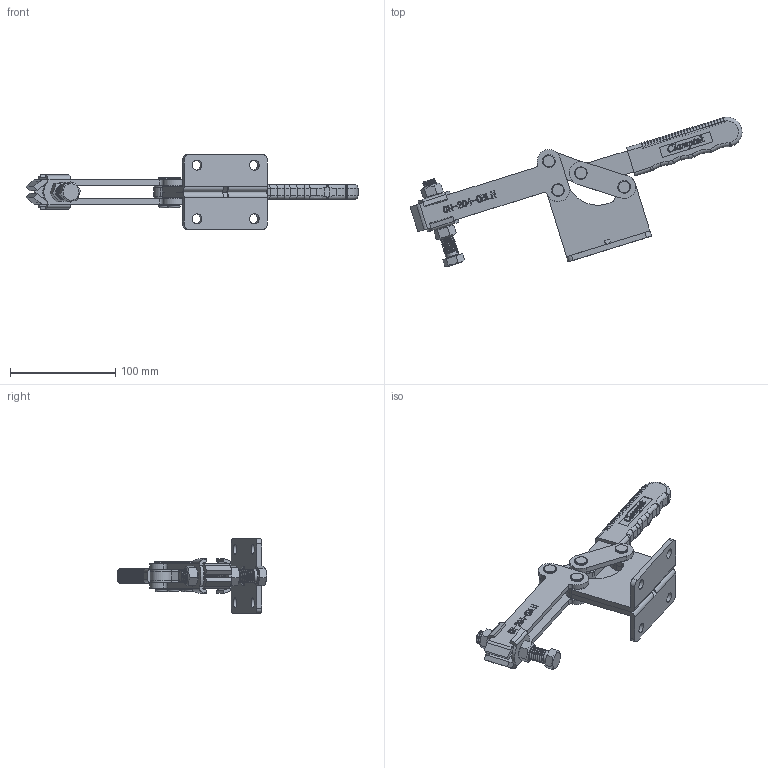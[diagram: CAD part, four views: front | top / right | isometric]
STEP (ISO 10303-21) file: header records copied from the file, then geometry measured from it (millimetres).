
FILE_DESCRIPTION(/* description */ ('STEP AP203'),/* implementation_level */ '2;1');
FILE_NAME(/* name */ 'E:\STRONA\Horizontal toggle clamp\CH-204-GBLH\CH-204-GBLH_ZAMKNIETY.stp',/* time_stamp */ '2019-01-15T14:33:33+01:00',/* author */ ('Admin'),/* organization */ ('Î¢ÈíÖÐ¹ú'),/* preprocessor_version */ 'ST-DEVELOPER v17.2',/* originating_system */ 'Autodesk Inventor 2019',/* authorisation */ '');
FILE_SCHEMA (('AUTOMOTIVE_DESIGN { 1 0 10303 214 3 1 1 }'));
Products named in the file (13): CH-204-GBLH_ZAMKNIETY; 204-GBLH-01___; 204-G-03___; 204-GB-07___; 204-GB-03___; 204-GBLH-02___; 204-GB-08___; 204-GB-06___; CH-FC-12130___; CH-FC-12300-01___; FW120(2)___; 204-GB-05___; 204-GB-04___
Assembly tree (24 placements, depth 3):
  CH-204-GBLH_ZAMKNIETY
    CH-FC-12300-01___  x2
    204-GB-08___  x4
    204-GB-05___  x4
    204-GBLH-01___
    204-GB-06___  x4
    204-GB-04___  x2
    204-G-03___
      204-GB-07___
      204-GB-03___
    FW120(2)___  x2
    204-GBLH-02___
    CH-FC-12130___
Bounding box: 315.69 x 142.12 x 71 mm (x, y, z)
Volume: 206894.8 mm3; surface area: 108131.8 mm2
Topology: 25 solids, 25 shells, 1423 faces, 3784 edges, 2471 vertices
Faces by surface type: plane 572, bspline 444, cylinder 296, torus 93, cone 16, sphere 2
Full cylindrical faces by diameter (mm): 2.8 x1, 4 x1, 9.4 x4, 9.5 x18, 10 x8, 10.2 x2, 10.5 x8, 12 x4, 12.7 x34, 20 x8
Entity records: 78190 total; most frequent: CARTESIAN_POINT 47484, ORIENTED_EDGE 7062, DIRECTION 4911, EDGE_CURVE 3531, VERTEX_POINT 2288, LINE 1953, VECTOR 1953, AXIS2_PLACEMENT_3D 1479
